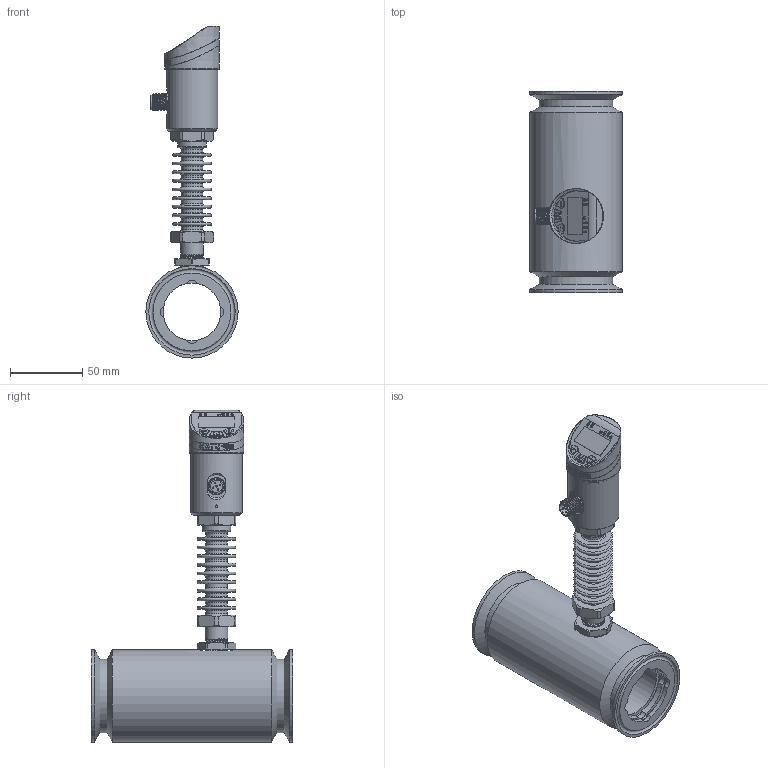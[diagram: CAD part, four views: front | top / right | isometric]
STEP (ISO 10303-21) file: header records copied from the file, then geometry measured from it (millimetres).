
FILE_DESCRIPTION( (''), '2;1');
FILE_NAME( 'QTKE_DN40_tri-clamp_high-temp.step', '2024-10-14T18:06:50+08:00', (''), (''), '', '', '');
FILE_SCHEMA (('AUTOMOTIVE_DESIGN { 1 0 10303 214 3 1 1 1 }'));
Length unit declared in the file: millimetre
Products named in the file (1): QTKE DN40_tri-clamp_high-temp
Bounding box: 64 x 140 x 230.5 mm (x, y, z)
Volume: 290054.4 mm3; surface area: 99444.3 mm2
Topology: 5 solids, 5 shells, 1032 faces, 2637 edges, 1714 vertices
Faces by surface type: plane 409, cylinder 208, extrusion 160, cone 113, torus 62, bspline 59, sphere 21
Full cylindrical faces by diameter (mm): 1.689 x1, 2 x1, 2.7 x6, 3.5 x5, 12 x1, 13 x1, 15 x10, 15.9 x1, 16.5 x1, 20 x1, 23 x3, 26 x5, 31.7 x1, 32 x1, 34 x1, 34.2 x1, 35.5 x2, 40 x1, 45 x4, 51 x2, 64 x3
Entity records: 45683 total; most frequent: CARTESIAN_POINT 17903, ORIENTED_EDGE 4866, DIRECTION 4340, EDGE_CURVE 2433, VERTEX_POINT 1653, AXIS2_PLACEMENT_3D 1572, EDGE_LOOP 1284, VECTOR 1196
